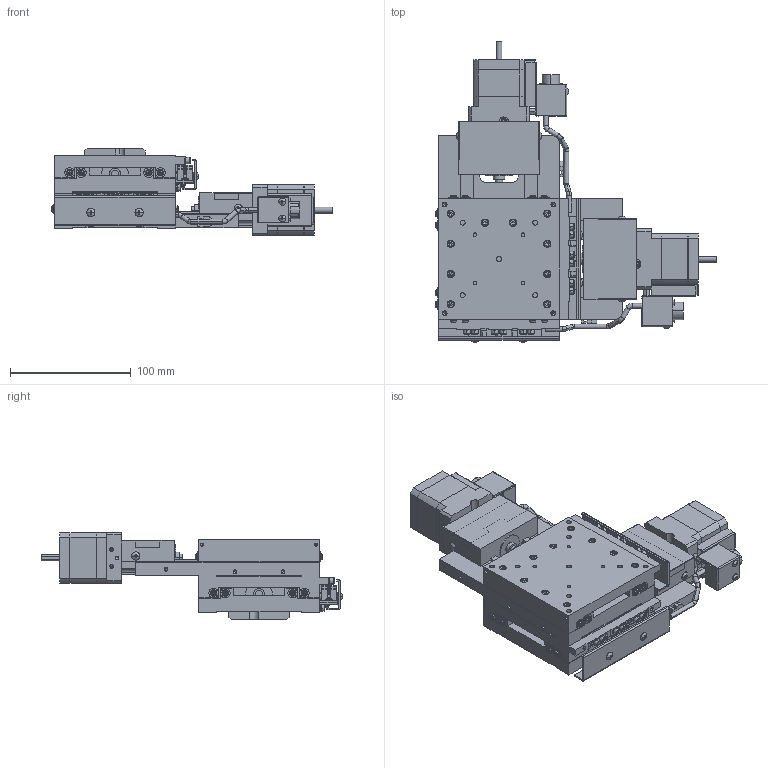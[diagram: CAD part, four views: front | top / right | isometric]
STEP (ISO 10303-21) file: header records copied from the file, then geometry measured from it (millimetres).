
FILE_DESCRIPTION (( 'STEP AP203' ), '1' );
FILE_NAME ('YA10A-R202-RRR.STEP', '2019-03-08T08:28:02', ( '' ), ( '' ), 'SwSTEP 2.0', 'SolidWorks 2018', '' );
FILE_SCHEMA (( 'CONFIG_CONTROL_DESIGN' ));
Length unit declared in the file: millimetre
Products named in the file (4): YA10A-R202-RRR; second table; base; table
Assembly tree (3 placements, depth 2):
  YA10A-R202-RRR
    table
    second table
    base
Bounding box: 232.48 x 249.09 x 72 mm (x, y, z)
Volume: 940628.8 mm3; surface area: 254136.6 mm2
Topology: 3 solids, 9 shells, 4195 faces, 10391 edges, 6354 vertices
Faces by surface type: plane 2521, cylinder 982, cone 552, sphere 72, torus 68
Entity records: 124405 total; most frequent: CARTESIAN_POINT 22397, DIRECTION 22185, ORIENTED_EDGE 20446, EDGE_CURVE 10223, AXIS2_PLACEMENT_3D 7910, VECTOR 6365, LINE 6365, VERTEX_POINT 6354
